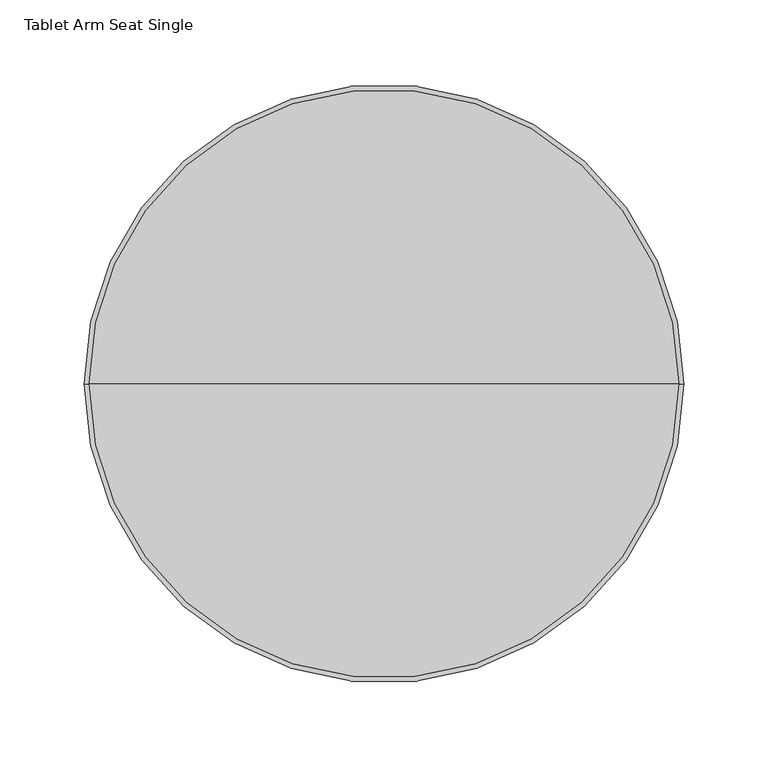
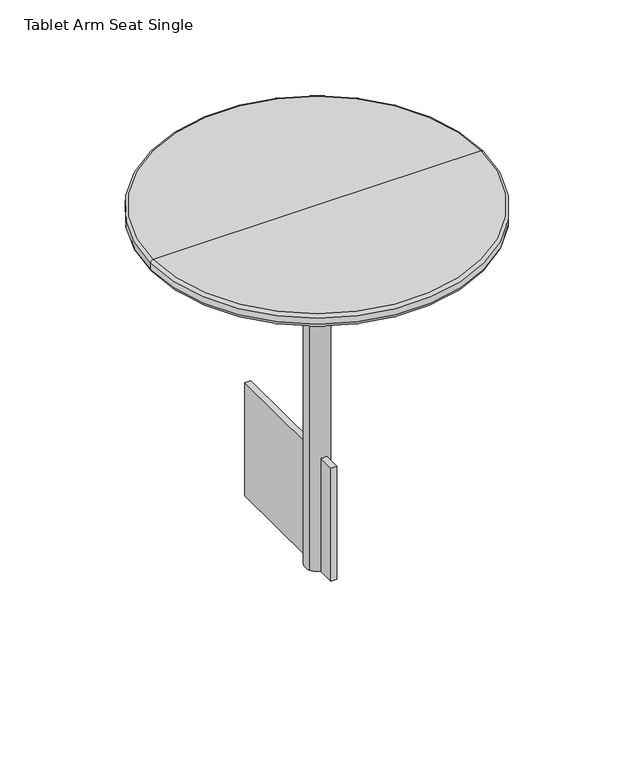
"""IFC4 building model written with IfcOpenShell, lengths in millimetres: furniture geometry, Stylex - Luna - Tray Table : Tablet Arm Seat Single."""

from ifc_helpers import new_model, si_unit, point, frame, origin, place, context, project, spatial, polyline, circle_curve, ellipse_curve, trimmed, source, transform, mapped, element, save
from ifc_brep_helpers import plane_surface, cylinder_surface, revolved_surface, advanced_brep


def tablet_arm_seat_single_76a2b899(model_context):
    return source(origin(), model_context, "Body", "AdvancedBrep", [
        advanced_brep(
        [(11.3610278, 36.3396677, 682.9226562), (-11.600928, 25.4810958, 682.9226562), (11.3610278, 36.3396677, 304.7192041), (3.1756282, 43.1753385, 304.7192041), (3.1756282, 43.1753385, 432.0065003), (-3.1756282, 43.2372966, 432.0065003), (-3.1756282, 43.2372966, 304.7192041), (-11.600928, 25.4810958, 304.7192041), (-3.1756282, 18.5834669, 304.7192041), (-3.1756282, 18.5834669, 432.0065003), (3.1756282, 18.645425, 432.0065003), (3.1756282, 18.645425, 304.7192041), (3.1756282, 158.75, 432.0065003), (-3.1756282, 158.75, 432.0065003), (-3.1756282, 0.0, 432.0065003), (3.1756282, 0.0, 432.0065003), (3.1756282, 0.0, 304.7192041), (-3.1756282, 0.0, 304.7192041), (-3.1756282, 158.75, 304.7192041), (3.1756282, 158.75, 304.7192041)],
        [
            (0, 1, circle_curve(frame((-0.1199501, 30.9103818, 682.9226562), z_axis=(0.0, 0.0, 1.0), x_axis=(-0.9040140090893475, -0.42750283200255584, 0.0)), 12.7)),
            (1, 0, circle_curve(frame((-0.1199501, 30.9103818, 682.9226562), z_axis=(0.0, 0.0, 1.0), x_axis=(-0.9040140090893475, -0.42750283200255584, 0.0)), 12.7)),
            (0, 2),
            (2, 3, circle_curve(frame((-0.1199501, 30.9103818, 304.7192041), z_axis=(0.0, 0.0, 1.0), x_axis=(-0.9040140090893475, -0.42750283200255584, 0.0)), 12.7)),
            (3, 4),
            (4, 5, circle_curve(frame((-0.1199501, 30.9103818, 432.0065003), z_axis=(0.0, 0.0, 1.0), x_axis=(-0.9040140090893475, -0.42750283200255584, 0.0)), 12.7)),
            (5, 6),
            (6, 7, circle_curve(frame((-0.1199501, 30.9103818, 304.7192041), z_axis=(0.0, 0.0, 1.0), x_axis=(-0.9040140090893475, -0.42750283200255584, 0.0)), 12.7)),
            (7, 1),
            (7, 8, circle_curve(frame((-0.1199501, 30.9103818, 304.7192041), z_axis=(0.0, 0.0, 1.0), x_axis=(-0.9040140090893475, -0.42750283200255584, 0.0)), 12.7)),
            (8, 9),
            (9, 10, circle_curve(frame((-0.1199501, 30.9103818, 432.0065003), z_axis=(0.0, 0.0, 1.0), x_axis=(-0.9040140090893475, -0.42750283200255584, 0.0)), 12.7)),
            (10, 11),
            (11, 2, circle_curve(frame((-0.1199501, 30.9103818, 304.7192041), z_axis=(0.0, 0.0, 1.0), x_axis=(-0.9040140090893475, -0.42750283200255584, 0.0)), 12.7)),
            (12, 13),
            (13, 5),
            (4, 12),
            (14, 15),
            (15, 10),
            (9, 14),
            (16, 17),
            (17, 8),
            (6, 18),
            (18, 19),
            (19, 3),
            (11, 16),
            (12, 19),
            (18, 13),
            (17, 14),
            (16, 15),
        ],
        [
            plane_surface(frame((-11.600928, 25.4810958, 682.9226562), z_axis=(0.0, 0.0, 1.0), x_axis=(0.4275028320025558, -0.9040140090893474, 0.0))),
            cylinder_surface(frame((-0.1199501, 30.9103818, 304.7192041), z_axis=(0.0, 0.0, 1.0000000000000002), x_axis=(-0.9040140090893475, -0.42750283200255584, 0.0)), 12.7),
            plane_surface(frame((-3.5307763, 158.75, 432.0065003), z_axis=(0.0, 0.0, 1.0), x_axis=(-1.0, 0.0, 0.0))),
            plane_surface(frame((-3.5307763, 158.75, 304.7192041), z_axis=(0.0, 0.0, -1.0), x_axis=(1.0, 0.0, 0.0))),
            plane_surface(frame((3.1756282, 158.75, 432.0065003), z_axis=(0.0, 1.0, 0.0), x_axis=(0.0, 0.0, -1.0))),
            plane_surface(frame((-3.1756282, 158.75, 432.0065003), z_axis=(-1.0, 0.0, 0.0), x_axis=(0.0, 0.0, -1.0))),
            plane_surface(frame((-3.1756282, 0.0, 432.0065003), z_axis=(0.0, -1.0, 0.0), x_axis=(0.0, 0.0, -1.0))),
            plane_surface(frame((3.1756282, 0.0, 432.0065003), z_axis=(1.0, 0.0, 0.0), x_axis=(0.0, 0.0, -1.0))),
        ],
        [
            (0, [[1, 2]]),
            (1, [[-1, 3, 4, 5, 6, 7, 8, 9]]),
            (1, [[-2, -9, 10, 11, 12, 13, 14, -3]]),
            (2, [[15, 16, -6, 17]]),
            (2, [[18, 19, -12, 20]]),
            (3, [[21, 22, -10, -8, 23, 24, 25, -4, -14, 26]]),
            (4, [[-15, 27, -24, 28]]),
            (5, [[-28, -23, -7, -16]]),
            (5, [[29, -20, -11, -22]]),
            (6, [[-18, -29, -21, 30]]),
            (7, [[-27, -17, -5, -25]]),
            (7, [[-30, -26, -13, -19]]),
        ],
    ),
        advanced_brep(
        [(174.360987, 30.9103202, 708.3966166), (-174.6018029, 30.9103202, 708.3966166), (-0.1204079, 30.9103202, 708.3966166), (177.3659877, 30.9103202, 705.391616), (-177.6068035, 30.9103202, 705.391616), (177.3659877, 30.9103202, 698.3410121), (-177.6068035, 30.9103202, 698.3410121), (174.0282614, 30.9103202, 694.2920264), (-174.2690772, 30.9103202, 694.2920264), (115.7844724, 30.9103202, 682.9705807), (-116.0252883, 30.9103202, 682.9705807), (-0.1204079, 30.9103202, 682.9705807)],
        [
            (0, 1, circle_curve(frame((-0.1204079, 30.9103202, 708.3966166), z_axis=(0.0, 0.0, 1.0), x_axis=(-1.0, 0.0, 0.0)), 174.4813949)),
            (1, 2),
            (2, 0),
            (1, 0, circle_curve(frame((-0.1204079, 30.9103202, 708.3966166), z_axis=(0.0, 0.0, 1.0), x_axis=(-1.0, 0.0, 0.0)), 174.4813949)),
            (3, 4, circle_curve(frame((-0.1204079, 30.9103202, 705.391616), z_axis=(0.0, 0.0, 1.0), x_axis=(-1.0, 0.0, 0.0)), 177.4863956)),
            (4, 1, circle_curve(frame((-174.6018029, 30.9103202, 705.391616), z_axis=(0.0, 1.0, 0.0), x_axis=(1.0, 0.0, 0.0)), 3.0050007)),
            (0, 3, circle_curve(frame((174.360987, 30.9103202, 705.391616), z_axis=(0.0, 1.0, 0.0), x_axis=(-1.0, 0.0, 0.0)), 3.0050007)),
            (4, 3, circle_curve(frame((-0.1204079, 30.9103202, 705.391616), z_axis=(0.0, 0.0, 1.0), x_axis=(-1.0, 0.0, 0.0)), 177.4863956)),
            (5, 6, circle_curve(frame((-0.1204079, 30.9103202, 698.3410121), z_axis=(0.0, 0.0, 1.0), x_axis=(-1.0, 0.0, 0.0)), 177.4863956)),
            (6, 4),
            (3, 5),
            (6, 5, circle_curve(frame((-0.1204079, 30.9103202, 698.3410121), z_axis=(0.0, 0.0, 1.0), x_axis=(-1.0, 0.0, 0.0)), 177.4863956)),
            (7, 8, circle_curve(frame((-0.1204079, 30.9103202, 694.2920264), z_axis=(0.0, 0.0, 1.0), x_axis=(-1.0, 0.0, 0.0)), 174.1486693)),
            (8, 6, circle_curve(frame((-173.4820341, 30.9103202, 698.3410121), z_axis=(0.0, 1.0, 0.0), x_axis=(1.0, 0.0, 0.0)), 4.1247694)),
            (5, 7, circle_curve(frame((173.2412183, 30.9103202, 698.3410121), z_axis=(0.0, 1.0, 0.0), x_axis=(-1.0, 0.0, 0.0)), 4.1247694)),
            (8, 7, circle_curve(frame((-0.1204079, 30.9103202, 694.2920264), z_axis=(0.0, 0.0, 1.0), x_axis=(-1.0, 0.0, 0.0)), 174.1486693)),
            (9, 10, circle_curve(frame((-0.1204079, 30.9103202, 682.9705807), z_axis=(0.0, 0.0, 1.0), x_axis=(-1.0, 0.0, 0.0)), 115.9048803)),
            (10, 8),
            (7, 9),
            (10, 9, circle_curve(frame((-0.1204079, 30.9103202, 682.9705807), z_axis=(0.0, 0.0, 1.0), x_axis=(-1.0, 0.0, 0.0)), 115.9048803)),
            (11, 10),
            (9, 11),
        ],
        [
            plane_surface(frame((-0.1204079, 30.9103202, 708.3966166), z_axis=(0.0, 0.0, 1.0), x_axis=(-1.0, 0.0, 0.0))),
            revolved_surface(trimmed(ellipse_curve(frame((-174.6018029, 30.9103202, 705.391616), z_axis=(0.0, -1.0, 0.0), x_axis=(1.0, 0.0, 0.0)), 3.0050007, 3.0050007), [point((-174.6018029, 30.9103202, 708.3966166))], [point((-177.6068035, 30.9103202, 705.391616))], True, "CARTESIAN"), (-0.1204079, 30.9103202, 798.1879176), (0.0, 0.0, -1.0)),
            cylinder_surface(frame((-0.1204079, 30.9103202, 798.1879176), z_axis=(0.0, 0.0, -1.0), x_axis=(-1.0, 0.0, 0.0)), 177.4863956),
            revolved_surface(trimmed(ellipse_curve(frame((-173.4820341, 30.9103202, 698.3410121), z_axis=(0.0, -1.0, 0.0), x_axis=(1.0, 0.0, 0.0)), 4.1247694, 4.1247694), [point((-177.6068035, 30.9103202, 698.3410121))], [point((-174.2690772, 30.9103202, 694.2920264))], True, "CARTESIAN"), (-0.1204079, 30.9103202, 798.1879176), (0.0, 0.0, -1.0)),
            revolved_surface(polyline([(-174.2690772, 30.9103202, 694.2920264), (-116.0252883, 30.9103202, 682.9705807)]), (-0.1204079, 30.9103202, 798.1879176), (0.0, 0.0, -1.0)),
            plane_surface(frame((-0.1204079, 30.9103202, 682.9705807), z_axis=(0.0, 0.0, -1.0), x_axis=(-1.0, 0.0, 0.0))),
        ],
        [
            (0, [[1, 2, 3]]),
            (0, [[4, -3, -2]]),
            (1, [[5, 6, -1, 7]]),
            (1, [[8, -7, -4, -6]]),
            (2, [[9, 10, -5, 11]]),
            (2, [[12, -11, -8, -10]]),
            (3, [[13, 14, -9, 15]]),
            (3, [[16, -15, -12, -14]]),
            (4, [[17, 18, -13, 19]]),
            (4, [[20, -19, -16, -18]]),
            (5, [[21, -17, 22]]),
            (5, [[-22, -20, -21]]),
        ],
    ),
    ])


if __name__ == "__main__":
    model = new_model("IFC4")
    model_context = context("Model", 3, world=origin())
    ifc_project = project(units=[si_unit("LENGTHUNIT", "METRE", prefix="MILLI")], contexts=[model_context])
    site = spatial("IfcSite", under=ifc_project)
    building = spatial("IfcBuilding", under=site)
    placement = place(None, origin())
    tablet_arm_seat_single_shape = tablet_arm_seat_single_76a2b899(model_context)
    element("IfcFurniture", 1, ObjectType="Stylex - Luna - Tray Table : Tablet Arm Seat Single", at=placement, inside=building, context=model_context, shape_type="MappedRepresentation", body=[
        mapped(tablet_arm_seat_single_shape, transform((0.0, 0.0, 0.0), x_axis=(1.0, 0.0, 0.0), y_axis=(0.0, 1.0, 0.0), z_axis=(0.0, 0.0, 1.0))),
    ])
    save(model, "model.ifc")
